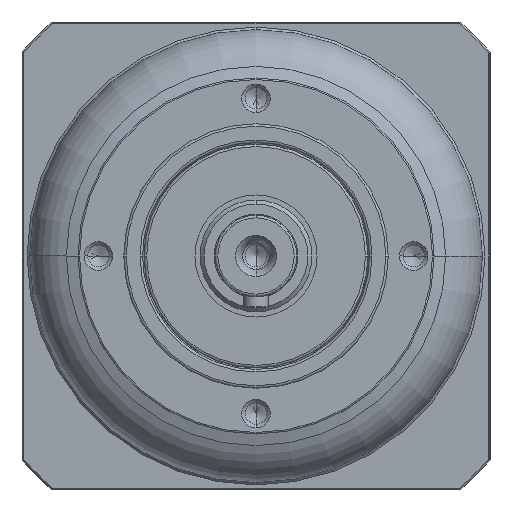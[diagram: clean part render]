
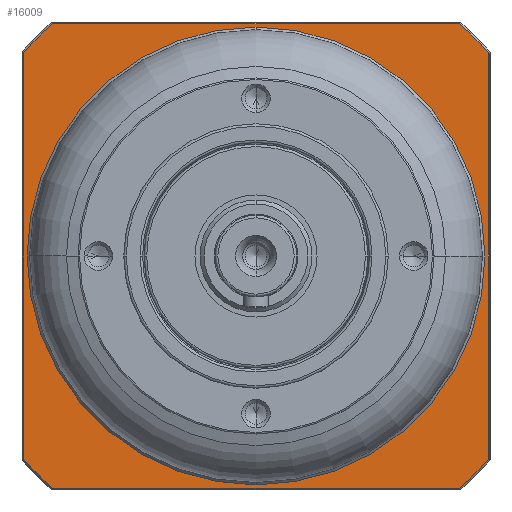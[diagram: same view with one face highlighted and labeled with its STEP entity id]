
A CAD part, left-side view. The second image highlights one B-rep face of the part: STEP entity #16009.
In plain terms, the highlighted planar face has unit normal (-1, 0, 0) as drawn and (0, 0, -1) by its records, which use the part's own axes.
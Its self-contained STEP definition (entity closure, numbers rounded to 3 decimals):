
#14904=CARTESIAN_POINT('',(0.,0.,
2.5));
#14905=DIRECTION('',(0.,0.,-1.));
#14906=DIRECTION('',(0.,-1.,0.));
#14907=AXIS2_PLACEMENT_3D('',#14904,#14905,#14906);
#14909=CARTESIAN_POINT('',(0.,0.,
2.5));
#14910=DIRECTION('',(0.,0.,-1.));
#14911=DIRECTION('',(0.,1.,0.));
#14912=AXIS2_PLACEMENT_3D('',#14909,#14910,#14911);
#14914=CARTESIAN_POINT('',(0.,0.,2.5));
#14915=DIRECTION('',(0.,0.,1.));
#14916=DIRECTION('',(-0.753,-0.658,0.));
#14917=AXIS2_PLACEMENT_3D('',#14914,#14915,#14916);
#14919=DIRECTION('',(1.,0.,0.));
#14920=VECTOR('',#14919,79.9);
#14921=CARTESIAN_POINT('',(-39.95,-45.7,
2.5));
#14922=LINE('',#14921,#14920);
#14923=CARTESIAN_POINT('',(0.,0.,2.5));
#14924=DIRECTION('',(0.,0.,1.));
#14925=DIRECTION('',(0.658,-0.753,0.));
#14926=AXIS2_PLACEMENT_3D('',#14923,#14924,#14925);
#14928=DIRECTION('',(0.,1.,0.));
#14929=VECTOR('',#14928,79.9);
#14930=CARTESIAN_POINT('',(45.7,-39.95,
2.5));
#14931=LINE('',#14930,#14929);
#14932=CARTESIAN_POINT('',(0.,0.,2.5));
#14933=DIRECTION('',(0.,0.,1.));
#14934=DIRECTION('',(0.753,0.658,0.));
#14935=AXIS2_PLACEMENT_3D('',#14932,#14933,#14934);
#14937=DIRECTION('',(-1.,0.,0.));
#14938=VECTOR('',#14937,79.9);
#14939=CARTESIAN_POINT('',(39.95,45.7,2.5));
#14940=LINE('',#14939,#14938);
#14941=CARTESIAN_POINT('',(0.,0.,2.5));
#14942=DIRECTION('',(0.,0.,1.));
#14943=DIRECTION('',(-0.658,0.753,0.));
#14944=AXIS2_PLACEMENT_3D('',#14941,#14942,#14943);
#14946=DIRECTION('',(0.,-1.,0.));
#14947=VECTOR('',#14946,79.9);
#14948=CARTESIAN_POINT('',(-45.7,39.95,
2.5));
#14949=LINE('',#14948,#14947);
#15666=CARTESIAN_POINT('',(0.,-45.,2.5));
#15667=CARTESIAN_POINT('',(0.,45.,
2.5));
#15668=VERTEX_POINT('',#15666);
#15669=VERTEX_POINT('',#15667);
#15738=CARTESIAN_POINT('',(-45.7,-39.95,2.5));
#15739=CARTESIAN_POINT('',(-39.95,-45.7,2.5));
#15740=VERTEX_POINT('',#15738);
#15741=VERTEX_POINT('',#15739);
#15746=CARTESIAN_POINT('',(39.95,-45.7,
2.5));
#15747=VERTEX_POINT('',#15746);
#15750=CARTESIAN_POINT('',(45.7,-39.95,2.5));
#15751=VERTEX_POINT('',#15750);
#15754=CARTESIAN_POINT('',(45.7,39.95,2.5));
#15755=VERTEX_POINT('',#15754);
#15758=CARTESIAN_POINT('',(39.95,45.7,2.5));
#15759=VERTEX_POINT('',#15758);
#15762=CARTESIAN_POINT('',(-39.95,45.7,
2.5));
#15763=VERTEX_POINT('',#15762);
#15768=CARTESIAN_POINT('',(-45.7,39.95,2.5));
#15769=VERTEX_POINT('',#15768);
#15981=CARTESIAN_POINT('',(0.,0.,2.5));
#15982=DIRECTION('',(0.,0.,1.));
#15983=DIRECTION('',(0.,1.,0.));
#15984=AXIS2_PLACEMENT_3D('',#15981,#15982,#15983);
#15985=PLANE('',#15984);
#15987=ORIENTED_EDGE('',*,*,#15986,.T.);
#15989=ORIENTED_EDGE('',*,*,#15988,.T.);
#15991=ORIENTED_EDGE('',*,*,#15990,.T.);
#15993=ORIENTED_EDGE('',*,*,#15992,.T.);
#15995=ORIENTED_EDGE('',*,*,#15994,.T.);
#15997=ORIENTED_EDGE('',*,*,#15996,.T.);
#15999=ORIENTED_EDGE('',*,*,#15998,.T.);
#16001=ORIENTED_EDGE('',*,*,#16000,.T.);
#16002=EDGE_LOOP('',(#15987,#15989,#15991,#15993,#15995,#15997,#15999,#16001));
#16003=FACE_OUTER_BOUND('',#16002,.F.);
#16005=ORIENTED_EDGE('',*,*,#16004,.T.);
#16006=ORIENTED_EDGE('',*,*,#15971,.T.);
#16007=EDGE_LOOP('',(#16005,#16006));
#16008=FACE_BOUND('',#16007,.F.);
#16009=ADVANCED_FACE('',(#16003,#16008),#15985,.F.);
#14908=CIRCLE('',#14907,45.);
#14913=CIRCLE('',#14912,45.);
#14918=CIRCLE('',#14917,60.7);
#14927=CIRCLE('',#14926,60.7);
#14936=CIRCLE('',#14935,60.7);
#14945=CIRCLE('',#14944,60.7);
#15971=EDGE_CURVE('',#15669,#15668,#14913,.T.);
#15986=EDGE_CURVE('',#15740,#15741,#14918,.T.);
#15988=EDGE_CURVE('',#15741,#15747,#14922,.T.);
#15990=EDGE_CURVE('',#15747,#15751,#14927,.T.);
#15992=EDGE_CURVE('',#15751,#15755,#14931,.T.);
#15994=EDGE_CURVE('',#15755,#15759,#14936,.T.);
#15996=EDGE_CURVE('',#15759,#15763,#14940,.T.);
#15998=EDGE_CURVE('',#15763,#15769,#14945,.T.);
#16000=EDGE_CURVE('',#15769,#15740,#14949,.T.);
#16004=EDGE_CURVE('',#15668,#15669,#14908,.T.);
